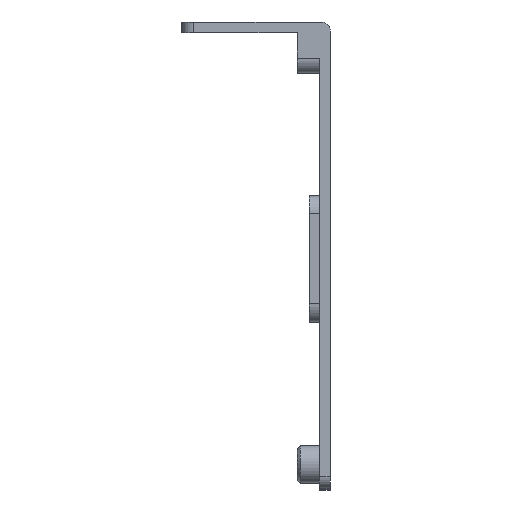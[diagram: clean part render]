
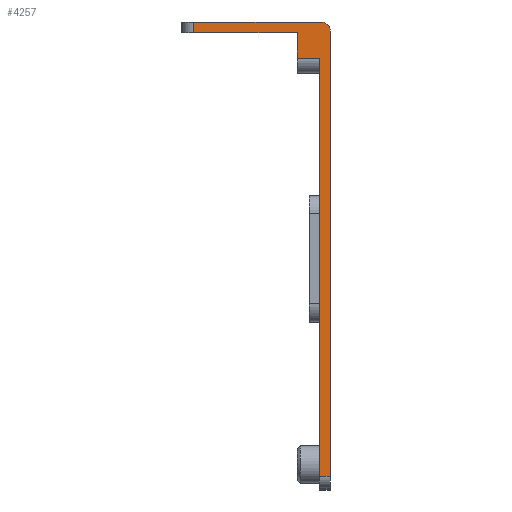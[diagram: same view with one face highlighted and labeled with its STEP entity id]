
A CAD part, left-side view. The second image highlights one B-rep face of the part: STEP entity #4257.
In plain terms, the highlighted planar face has unit normal (-1, 0, 0).
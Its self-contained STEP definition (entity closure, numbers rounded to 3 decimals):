
#9 = ORIENTED_EDGE ( 'NONE', *, *, #5123, .T. ) ;
#76 = CARTESIAN_POINT ( 'NONE',  ( -68.333, -1.2, 11.968 ) ) ;
#105 = ORIENTED_EDGE ( 'NONE', *, *, #1536, .F. ) ;
#241 = VECTOR ( 'NONE', #3101, 1000. ) ;
#262 = FACE_OUTER_BOUND ( 'NONE', #2433, .T. ) ;
#293 = VECTOR ( 'NONE', #5157, 1000. ) ;
#407 = AXIS2_PLACEMENT_3D ( 'NONE', #1698, #3766, #5540 ) ;
#710 = CARTESIAN_POINT ( 'NONE',  ( -68.333, 0.3, 11.968 ) ) ;
#762 = VERTEX_POINT ( 'NONE', #5146 ) ;
#930 = CARTESIAN_POINT ( 'NONE',  ( -68.333, 4.3, 11.718 ) ) ;
#1107 = CARTESIAN_POINT ( 'NONE',  ( -68.333, -1.2, 13.468 ) ) ;
#1140 = ORIENTED_EDGE ( 'NONE', *, *, #1492, .T. ) ;
#1378 = EDGE_CURVE ( 'NONE', #3697, #4179, #2108, .T. ) ;
#1491 = VECTOR ( 'NONE', #3707, 1000. ) ;
#1492 = EDGE_CURVE ( 'NONE', #5570, #1990, #1933, .T. ) ;
#1495 = ORIENTED_EDGE ( 'NONE', *, *, #4012, .T. ) ;
#1500 = CIRCLE ( 'NONE', #3436, 1.5 ) ;
#1517 = VERTEX_POINT ( 'NONE', #76 ) ;
#1536 = EDGE_CURVE ( 'NONE', #1517, #4179, #4724, .T. ) ;
#1638 = LINE ( 'NONE', #5171, #1491 ) ;
#1664 = CARTESIAN_POINT ( 'NONE',  ( -68.333, 21.45, 0. ) ) ;
#1676 = DIRECTION ( 'NONE',  ( 0., -1., 0. ) ) ;
#1698 = CARTESIAN_POINT ( 'NONE',  ( -68.333, 0., 0. ) ) ;
#1933 = LINE ( 'NONE', #2712, #2760 ) ;
#1990 = VERTEX_POINT ( 'NONE', #2353 ) ;
#2077 = VERTEX_POINT ( 'NONE', #4308 ) ;
#2084 = EDGE_CURVE ( 'NONE', #1990, #762, #3916, .T. ) ;
#2096 = DIRECTION ( 'NONE',  ( 0., 0., -1. ) ) ;
#2108 = LINE ( 'NONE', #3877, #2111 ) ;
#2111 = VECTOR ( 'NONE', #1676, 1000. ) ;
#2308 = CARTESIAN_POINT ( 'NONE',  ( -68.333, 0., 7.468 ) ) ;
#2353 = CARTESIAN_POINT ( 'NONE',  ( -68.333, 21.45, 13.468 ) ) ;
#2433 = EDGE_LOOP ( 'NONE', ( #105, #5590, #1140, #3179, #1495, #9, #2752, #3357, #4693 ) ) ;
#2461 = CARTESIAN_POINT ( 'NONE',  ( -68.333, -1.2, -61.882 ) ) ;
#2498 = EDGE_CURVE ( 'NONE', #3697, #2880, #1638, .T. ) ;
#2615 = LINE ( 'NONE', #3131, #4484 ) ;
#2712 = CARTESIAN_POINT ( 'NONE',  ( -68.333, 0., 13.468 ) ) ;
#2713 = VERTEX_POINT ( 'NONE', #930 ) ;
#2752 = ORIENTED_EDGE ( 'NONE', *, *, #5291, .T. ) ;
#2760 = VECTOR ( 'NONE', #3702, 1000. ) ;
#2880 = VERTEX_POINT ( 'NONE', #4188 ) ;
#2919 = DIRECTION ( 'NONE',  ( 0., 0., 1. ) ) ;
#2947 = EDGE_CURVE ( 'NONE', #1517, #5570, #1500, .T. ) ;
#3046 = LINE ( 'NONE', #4817, #241 ) ;
#3048 = DIRECTION ( 'NONE',  ( 0., 0., -1. ) ) ;
#3101 = DIRECTION ( 'NONE',  ( 0., -1., 0. ) ) ;
#3131 = CARTESIAN_POINT ( 'NONE',  ( -68.333, 4.3, 0. ) ) ;
#3179 = ORIENTED_EDGE ( 'NONE', *, *, #2084, .T. ) ;
#3320 = DIRECTION ( 'NONE',  ( -1., 0., 0. ) ) ;
#3357 = ORIENTED_EDGE ( 'NONE', *, *, #2498, .F. ) ;
#3436 = AXIS2_PLACEMENT_3D ( 'NONE', #710, #3320, #2919 ) ;
#3697 = VERTEX_POINT ( 'NONE', #5493 ) ;
#3702 = DIRECTION ( 'NONE',  ( 0., 1., 0. ) ) ;
#3707 = DIRECTION ( 'NONE',  ( 0., 0., 1. ) ) ;
#3766 = DIRECTION ( 'NONE',  ( -1., 0., 0. ) ) ;
#3877 = CARTESIAN_POINT ( 'NONE',  ( -68.333, 0., -61.882 ) ) ;
#3916 = LINE ( 'NONE', #1664, #4351 ) ;
#4012 = EDGE_CURVE ( 'NONE', #762, #2713, #3046, .T. ) ;
#4179 = VERTEX_POINT ( 'NONE', #2461 ) ;
#4188 = CARTESIAN_POINT ( 'NONE',  ( -68.333, 0.6, 7.468 ) ) ;
#4257 = ADVANCED_FACE ( 'NONE', ( #262 ), #5670, .T. ) ;
#4308 = CARTESIAN_POINT ( 'NONE',  ( -68.333, 4.3, 7.468 ) ) ;
#4351 = VECTOR ( 'NONE', #2096, 1000. ) ;
#4484 = VECTOR ( 'NONE', #3048, 1000. ) ;
#4693 = ORIENTED_EDGE ( 'NONE', *, *, #1378, .T. ) ;
#4724 = LINE ( 'NONE', #1107, #293 ) ;
#4812 = CARTESIAN_POINT ( 'NONE',  ( -68.333, 0.3, 13.468 ) ) ;
#4817 = CARTESIAN_POINT ( 'NONE',  ( -68.333, 0., 11.718 ) ) ;
#5055 = DIRECTION ( 'NONE',  ( 0., -1., 0. ) ) ;
#5081 = LINE ( 'NONE', #2308, #5149 ) ;
#5123 = EDGE_CURVE ( 'NONE', #2713, #2077, #2615, .T. ) ;
#5146 = CARTESIAN_POINT ( 'NONE',  ( -68.333, 21.45, 11.718 ) ) ;
#5149 = VECTOR ( 'NONE', #5055, 1000. ) ;
#5157 = DIRECTION ( 'NONE',  ( 0., 0., -1. ) ) ;
#5171 = CARTESIAN_POINT ( 'NONE',  ( -68.333, 0.6, -61.882 ) ) ;
#5291 = EDGE_CURVE ( 'NONE', #2077, #2880, #5081, .T. ) ;
#5493 = CARTESIAN_POINT ( 'NONE',  ( -68.333, 0.6, -61.882 ) ) ;
#5540 = DIRECTION ( 'NONE',  ( 0., 0., 1. ) ) ;
#5570 = VERTEX_POINT ( 'NONE', #4812 ) ;
#5590 = ORIENTED_EDGE ( 'NONE', *, *, #2947, .T. ) ;
#5670 = PLANE ( 'NONE',  #407 ) ;
